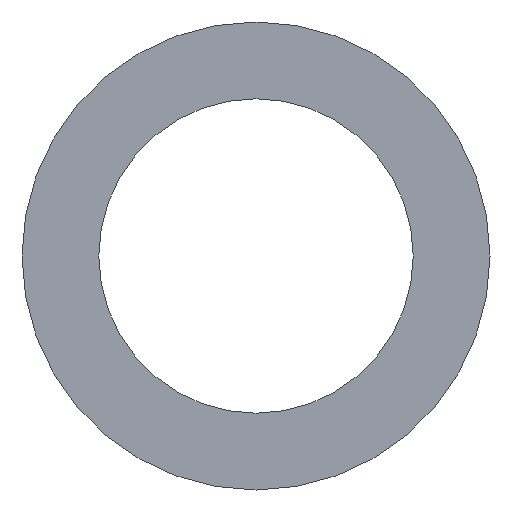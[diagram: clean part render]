
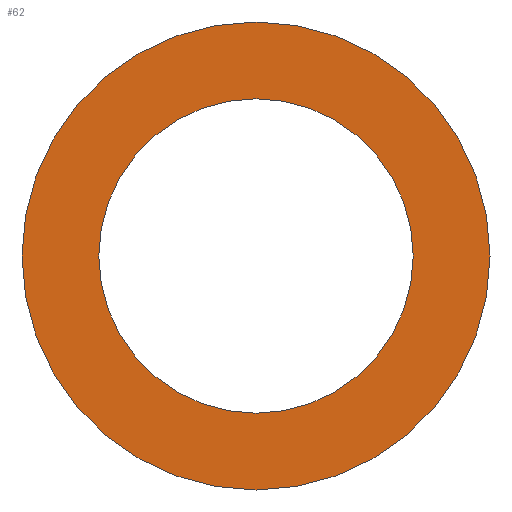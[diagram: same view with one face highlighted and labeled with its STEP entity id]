
A CAD part, front view. The second image highlights one B-rep face of the part: STEP entity #62.
In plain terms, the highlighted planar face has unit normal (0, -1, 0).
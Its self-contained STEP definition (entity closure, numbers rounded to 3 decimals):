
#20=PLANE('',#83);
#26=ORIENTED_EDGE('',*,*,#30,.T.);
#27=ORIENTED_EDGE('',*,*,#32,.F.);
#30=EDGE_CURVE('',#34,#34,#38,.T.);
#32=EDGE_CURVE('',#36,#36,#40,.T.);
#34=VERTEX_POINT('',#106);
#36=VERTEX_POINT('',#111);
#38=CIRCLE('',#78,199.5);
#40=CIRCLE('',#81,297.);
#46=EDGE_LOOP('',(#26));
#47=EDGE_LOOP('',(#27));
#54=FACE_BOUND('',#46,.T.);
#55=FACE_BOUND('',#47,.T.);
#62=ADVANCED_FACE('',(#54,#55),#20,.F.);
#78=AXIS2_PLACEMENT_3D('',#105,#89,#90);
#81=AXIS2_PLACEMENT_3D('',#110,#95,#96);
#83=AXIS2_PLACEMENT_3D('',#114,#99,#100);
#89=DIRECTION('',(0.,1.,0.));
#90=DIRECTION('',(1.,0.,0.));
#95=DIRECTION('',(0.,1.,0.));
#96=DIRECTION('',(1.,0.,0.));
#99=DIRECTION('',(0.,1.,0.));
#100=DIRECTION('',(0.,0.,1.));
#105=CARTESIAN_POINT('',(0.,-1.5,0.));
#106=CARTESIAN_POINT('',(199.5,-1.5,0.));
#110=CARTESIAN_POINT('',(0.,-1.5,0.));
#111=CARTESIAN_POINT('',(297.,-1.5,0.));
#114=CARTESIAN_POINT('',(0.,-1.5,0.));
